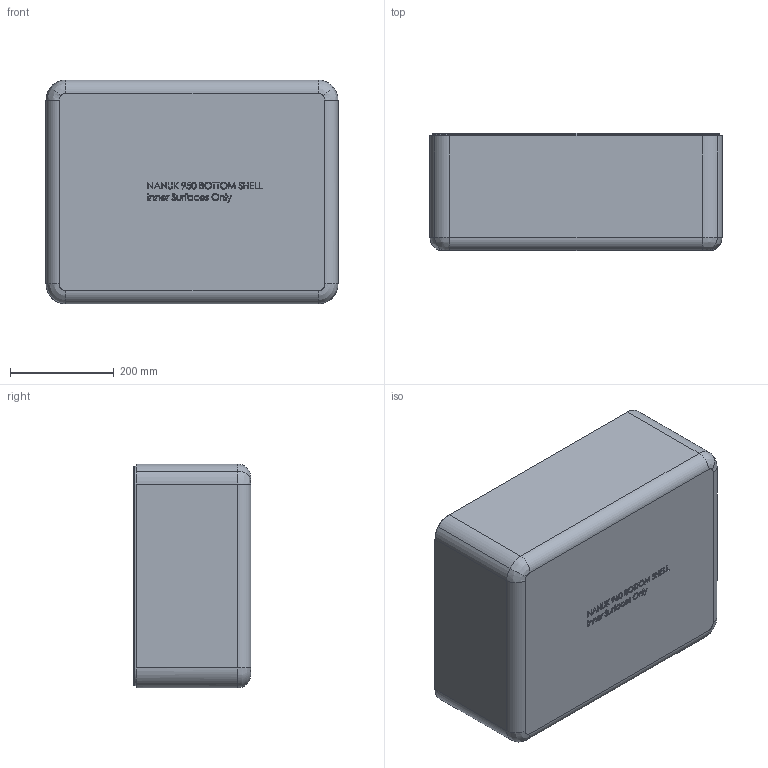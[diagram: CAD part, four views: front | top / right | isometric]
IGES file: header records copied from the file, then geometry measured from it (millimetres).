
Start section: SolidWorks IGES file using analytic representation for surfaces
Global section: file name: C:\Solidworks Files\950 Inner Surfaces\NANUK_950_Bottom_Shell_INNER SURFS_Iges.IGS; native system: SolidWorks 2014; preprocessor: SolidWorks 2014; author: plouimet; date: 140131.124952; units: inch
Bounding box: 562.39 x 226.19 x 430.95 mm (x, y, z)
Surface area: 1237199.5 mm2 (no closed solid volume)
Topology: 0 solids, 0 shells, 1031 faces, 13967 edges, 13957 vertices
Faces by surface type: bspline 820, revolution 211
